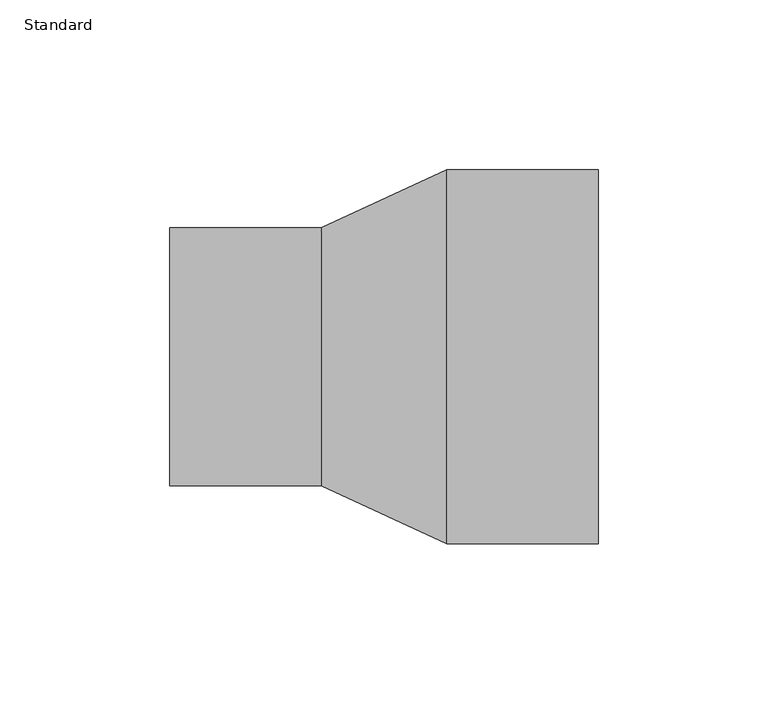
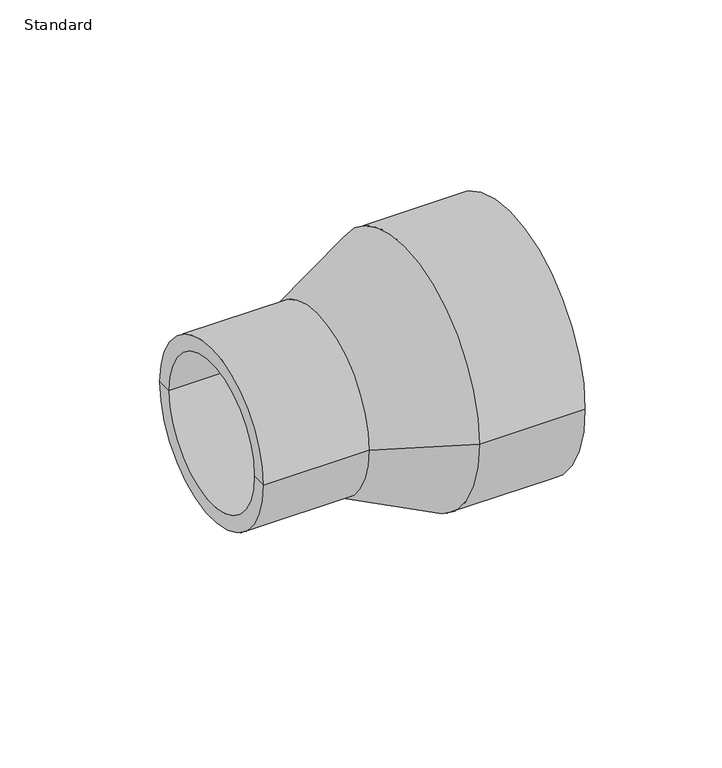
"""IFC4 building model written with IfcOpenShell, lengths in millimetres: pipe fitting geometry, Durapipe_PipeFitting_PVC_Reducers : Standard."""

from ifc_helpers import new_model, si_unit, frame, origin, place, context, project, spatial, polyline, circle_curve, source, transform, mapped, element, save
from ifc_brep_helpers import plane_surface, cylinder_surface, revolved_surface, advanced_brep


def standard_412f0ce8(model_context):
    return source(origin(), model_context, "Body", "AdvancedBrep", [
        advanced_brep(
        [(-63.0, -38.0, 0.0), (-63.0, 38.0, 0.0), (-18.5, 38.0, 0.0), (-18.5, -38.0, 0.0), (-63.0, -31.5, 0.0), (-63.0, 31.5, 0.0), (63.0, -55.0, 0.0), (63.0, 55.0, 0.0), (63.0, 45.0, 0.0), (63.0, -45.0, 0.0), (18.5, -55.0, 0.0), (18.5, 55.0, 0.0), (-18.5, -31.5, 0.0), (-18.5, 31.5, 0.0), (-18.5, 0.0, 0.0), (18.5, -45.0, 0.0), (18.5, 45.0, 0.0), (18.5, 0.0, 0.0)],
        [
            (0, 1, circle_curve(frame((-63.0, 0.0, 0.0), z_axis=(1.0, 0.0, 0.0), x_axis=(0.0, 1.0, 0.0)), 38.0)),
            (1, 2),
            (2, 3, circle_curve(frame((-18.5, 0.0, 0.0), z_axis=(-1.0, 0.0, 0.0), x_axis=(0.0, 1.0, 0.0)), 38.0)),
            (3, 0),
            (1, 0, circle_curve(frame((-63.0, 0.0, 0.0), z_axis=(1.0, 0.0, 0.0), x_axis=(0.0, 1.0, 0.0)), 38.0)),
            (3, 2, circle_curve(frame((-18.5, 0.0, 0.0), z_axis=(-1.0, 0.0, 0.0), x_axis=(0.0, 1.0, 0.0)), 38.0)),
            (4, 5, circle_curve(frame((-63.0, 0.0, 0.0), z_axis=(1.0, 0.0, 0.0), x_axis=(0.0, 1.0, 0.0)), 31.5)),
            (5, 1),
            (0, 4),
            (5, 4, circle_curve(frame((-63.0, 0.0, 0.0), z_axis=(1.0, 0.0, 0.0), x_axis=(0.0, 1.0, 0.0)), 31.5)),
            (6, 7, circle_curve(frame((63.0, 0.0, 0.0), z_axis=(1.0, 0.0, 0.0), x_axis=(0.0, 1.0, 0.0)), 55.0)),
            (7, 8),
            (8, 9, circle_curve(frame((63.0, 0.0, 0.0), z_axis=(-1.0, 0.0, 0.0), x_axis=(0.0, 1.0, 0.0)), 45.0)),
            (9, 6),
            (7, 6, circle_curve(frame((63.0, 0.0, 0.0), z_axis=(1.0, 0.0, 0.0), x_axis=(0.0, 1.0, 0.0)), 55.0)),
            (9, 8, circle_curve(frame((63.0, 0.0, 0.0), z_axis=(-1.0, 0.0, 0.0), x_axis=(0.0, 1.0, 0.0)), 45.0)),
            (10, 11, circle_curve(frame((18.5, 0.0, 0.0), z_axis=(1.0, 0.0, 0.0), x_axis=(0.0, 1.0, 0.0)), 55.0)),
            (11, 7),
            (6, 10),
            (11, 10, circle_curve(frame((18.5, 0.0, 0.0), z_axis=(1.0, 0.0, 0.0), x_axis=(0.0, 1.0, 0.0)), 55.0)),
            (2, 11),
            (10, 3),
            (12, 13, circle_curve(frame((-18.5, 0.0, 0.0), z_axis=(1.0, 0.0, 0.0), x_axis=(0.0, 1.0, 0.0)), 31.5)),
            (13, 5),
            (4, 12),
            (13, 12, circle_curve(frame((-18.5, 0.0, 0.0), z_axis=(1.0, 0.0, 0.0), x_axis=(0.0, 1.0, 0.0)), 31.5)),
            (14, 13),
            (12, 14),
            (15, 16, circle_curve(frame((18.5, 0.0, 0.0), z_axis=(1.0, 0.0, 0.0), x_axis=(0.0, 1.0, 0.0)), 45.0)),
            (16, 17),
            (17, 15),
            (16, 15, circle_curve(frame((18.5, 0.0, 0.0), z_axis=(1.0, 0.0, 0.0), x_axis=(0.0, 1.0, 0.0)), 45.0)),
            (8, 16),
            (15, 9),
        ],
        [
            cylinder_surface(frame((-63.0, 0.0, 0.0), z_axis=(-1.0, 0.0, 0.0), x_axis=(0.0, 1.0, 0.0)), 38.0),
            plane_surface(frame((-63.0, 0.0, 0.0), z_axis=(-1.0, 0.0, 0.0), x_axis=(0.0, 1.0, 0.0))),
            plane_surface(frame((63.0, 0.0, 0.0), z_axis=(1.0, 0.0, 0.0), x_axis=(0.0, 1.0, 0.0))),
            cylinder_surface(frame((-63.0, 0.0, 0.0), z_axis=(-1.0, 0.0, 0.0), x_axis=(0.0, 1.0, 0.0)), 55.0),
            revolved_surface(polyline([(18.5, 55.0, 0.0), (-18.5, 38.0, 0.0)]), (-63.0, 0.0, 0.0), (-1.0, 0.0, 0.0)),
            revolved_surface(polyline([(-63.0, 31.5, 0.0), (-18.5, 31.5, 0.0)]), (-63.0, 0.0, 0.0), (-1.0, 0.0, 0.0)),
            plane_surface(frame((-18.5, 0.0, 0.0), z_axis=(-1.0, 0.0, 0.0), x_axis=(0.0, 1.0, 0.0))),
            plane_surface(frame((18.5, 0.0, 0.0), z_axis=(1.0, 0.0, 0.0), x_axis=(0.0, 1.0, 0.0))),
            revolved_surface(polyline([(18.5, 45.0, 0.0), (63.0, 45.0, 0.0)]), (-63.0, 0.0, 0.0), (-1.0, 0.0, 0.0)),
        ],
        [
            (0, [[1, 2, 3, 4]]),
            (0, [[5, -4, 6, -2]]),
            (1, [[7, 8, -1, 9]]),
            (1, [[10, -9, -5, -8]]),
            (2, [[11, 12, 13, 14]]),
            (2, [[15, -14, 16, -12]]),
            (3, [[17, 18, -11, 19]]),
            (3, [[20, -19, -15, -18]]),
            (4, [[-3, 21, -17, 22]]),
            (4, [[-6, -22, -20, -21]]),
            (5, [[23, 24, -7, 25]]),
            (5, [[26, -25, -10, -24]]),
            (6, [[27, -23, 28]]),
            (6, [[-28, -26, -27]]),
            (7, [[29, 30, 31]]),
            (7, [[32, -31, -30]]),
            (8, [[-13, 33, -29, 34]]),
            (8, [[-16, -34, -32, -33]]),
        ],
    ),
    ])


if __name__ == "__main__":
    model = new_model("IFC4")
    model_context = context("Model", 3, world=origin())
    ifc_project = project(units=[si_unit("LENGTHUNIT", "METRE", prefix="MILLI")], contexts=[model_context])
    site = spatial("IfcSite", under=ifc_project)
    building = spatial("IfcBuilding", under=site)
    placement = place(None, origin())
    standard_shape = standard_412f0ce8(model_context)
    element("IfcPipeFitting", 1, ObjectType="Durapipe_PipeFitting_PVC_Reducers : Standard", at=placement, inside=building, context=model_context, shape_type="MappedRepresentation", body=[
        mapped(standard_shape, transform((0.0, 0.0, 0.0), x_axis=(1.0, 0.0, 0.0), y_axis=(0.0, 1.0, 0.0), z_axis=(0.0, 0.0, 1.0))),
    ])
    save(model, "model.ifc")
